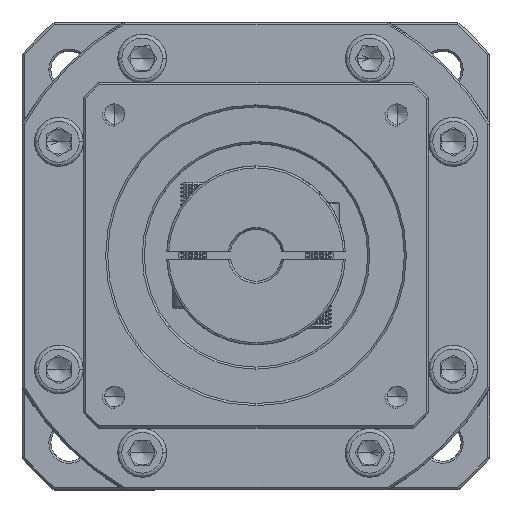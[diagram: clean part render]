
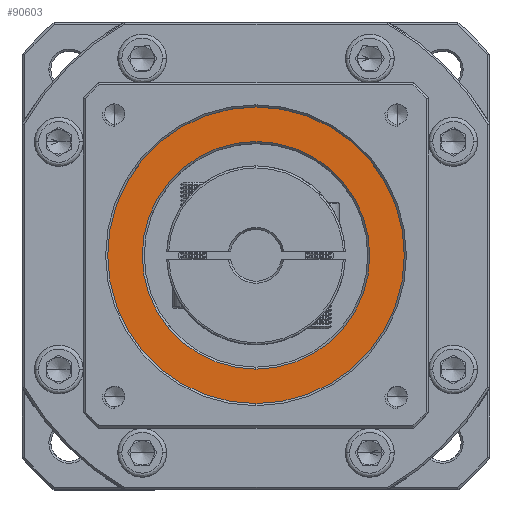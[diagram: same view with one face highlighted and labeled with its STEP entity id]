
A CAD part, top view. The second image highlights one B-rep face of the part: STEP entity #90603.
In plain terms, the highlighted planar face has unit normal (0, 0, 1).
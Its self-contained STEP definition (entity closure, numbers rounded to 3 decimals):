
#402 = AXIS2_PLACEMENT_3D ( 'NONE', #90474, #37134, #99402 ) ;
#3393 = ORIENTED_EDGE ( 'NONE', *, *, #11713, .T. ) ;
#7846 = CARTESIAN_POINT ( 'NONE',  ( -52.482, 8.583, 265.002 ) ) ;
#11713 = EDGE_CURVE ( 'NONE', #50845, #33135, #34179, .T. ) ;
#15336 = DIRECTION ( 'NONE',  ( 0., 0., 1. ) ) ;
#16843 = DIRECTION ( 'NONE',  ( 0., 1., 0. ) ) ;
#24158 = EDGE_CURVE ( 'NONE', #33135, #50845, #49843, .T. ) ;
#25251 = CIRCLE ( 'NONE', #104808, 28. ) ;
#33135 = VERTEX_POINT ( 'NONE', #90157 ) ;
#33846 = AXIS2_PLACEMENT_3D ( 'NONE', #44799, #107011, #53771 ) ;
#34179 = CIRCLE ( 'NONE', #95591, 36.5 ) ;
#34253 = CARTESIAN_POINT ( 'NONE',  ( -52.482, 8.583, 265.002 ) ) ;
#37134 = DIRECTION ( 'NONE',  ( 0., 0., 1. ) ) ;
#43192 = DIRECTION ( 'NONE',  ( 0., 1., 0. ) ) ;
#44613 = ORIENTED_EDGE ( 'NONE', *, *, #111810, .T. ) ;
#44799 = CARTESIAN_POINT ( 'NONE',  ( -52.482, 8.583, 265.002 ) ) ;
#49843 = CIRCLE ( 'NONE', #110612, 36.5 ) ;
#50845 = VERTEX_POINT ( 'NONE', #63374 ) ;
#53771 = DIRECTION ( 'NONE',  ( 0., 1., 0. ) ) ;
#54694 = PLANE ( 'NONE',  #402 ) ;
#61311 = ORIENTED_EDGE ( 'NONE', *, *, #24158, .T. ) ;
#61505 = ORIENTED_EDGE ( 'NONE', *, *, #95374, .T. ) ;
#63374 = CARTESIAN_POINT ( 'NONE',  ( -52.482, 45.083, 265.002 ) ) ;
#68675 = CARTESIAN_POINT ( 'NONE',  ( -52.482, 8.583, 265.002 ) ) ;
#68723 = CARTESIAN_POINT ( 'NONE',  ( -52.482, 36.583, 265.002 ) ) ;
#70189 = DIRECTION ( 'NONE',  ( 0., 0., -1. ) ) ;
#74683 = CIRCLE ( 'NONE', #33846, 28. ) ;
#77601 = DIRECTION ( 'NONE',  ( 0., 1., 0. ) ) ;
#80422 = FACE_OUTER_BOUND ( 'NONE', #95736, .T. ) ;
#82793 = VERTEX_POINT ( 'NONE', #94555 ) ;
#88908 = VERTEX_POINT ( 'NONE', #68723 ) ;
#90157 = CARTESIAN_POINT ( 'NONE',  ( -52.482, -27.917, 265.002 ) ) ;
#90474 = CARTESIAN_POINT ( 'NONE',  ( -52.482, 8.583, 265.002 ) ) ;
#90603 = ADVANCED_FACE ( 'NONE', ( #80422, #101308 ), #54694, .T. ) ;
#94555 = CARTESIAN_POINT ( 'NONE',  ( -52.482, -19.417, 265.002 ) ) ;
#95257 = EDGE_LOOP ( 'NONE', ( #61505, #44613 ) ) ;
#95374 = EDGE_CURVE ( 'NONE', #88908, #82793, #74683, .T. ) ;
#95591 = AXIS2_PLACEMENT_3D ( 'NONE', #34253, #96537, #43192 ) ;
#95736 = EDGE_LOOP ( 'NONE', ( #3393, #61311 ) ) ;
#96537 = DIRECTION ( 'NONE',  ( 0., 0., 1. ) ) ;
#99402 = DIRECTION ( 'NONE',  ( 0., 1., 0. ) ) ;
#101308 = FACE_BOUND ( 'NONE', #95257, .T. ) ;
#104808 = AXIS2_PLACEMENT_3D ( 'NONE', #7846, #70189, #16843 ) ;
#107011 = DIRECTION ( 'NONE',  ( 0., 0., -1. ) ) ;
#110612 = AXIS2_PLACEMENT_3D ( 'NONE', #68675, #15336, #77601 ) ;
#111810 = EDGE_CURVE ( 'NONE', #82793, #88908, #25251, .T. ) ;
